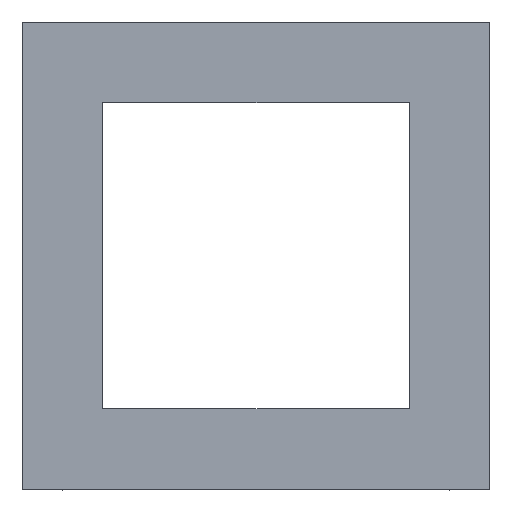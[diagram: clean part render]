
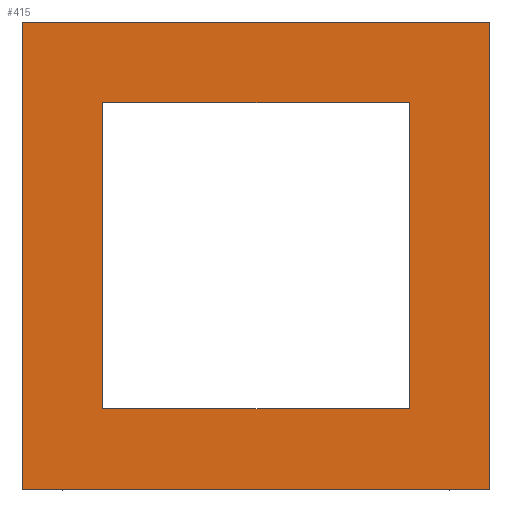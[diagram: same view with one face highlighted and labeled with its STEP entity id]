
A CAD part, top view. The second image highlights one B-rep face of the part: STEP entity #415.
In plain terms, the highlighted planar face has unit normal (0, 0, 1).
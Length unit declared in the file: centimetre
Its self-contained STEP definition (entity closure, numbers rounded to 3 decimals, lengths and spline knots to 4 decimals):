
#112=VECTOR('',#492,1.);
#115=VECTOR('',#496,1.);
#117=VECTOR('',#499,1.);
#119=VECTOR('',#502,1.);
#120=VECTOR('',#504,1.);
#123=VECTOR('',#508,1.);
#125=VECTOR('',#511,1.);
#127=VECTOR('',#514,1.);
#136=LINE('',#566,#112);
#139=LINE('',#572,#115);
#141=LINE('',#576,#117);
#143=LINE('',#580,#119);
#144=LINE('',#582,#120);
#147=LINE('',#588,#123);
#149=LINE('',#592,#125);
#151=LINE('',#596,#127);
#165=PLANE('',#445);
#186=VERTEX_POINT('',#567);
#187=VERTEX_POINT('',#568);
#188=VERTEX_POINT('',#573);
#189=VERTEX_POINT('',#577);
#190=VERTEX_POINT('',#583);
#191=VERTEX_POINT('',#584);
#192=VERTEX_POINT('',#589);
#193=VERTEX_POINT('',#593);
#234=EDGE_CURVE('',#186,#187,#136,.T.);
#237=EDGE_CURVE('',#187,#188,#139,.T.);
#239=EDGE_CURVE('',#188,#189,#141,.T.);
#241=EDGE_CURVE('',#189,#186,#143,.T.);
#242=EDGE_CURVE('',#190,#191,#144,.T.);
#245=EDGE_CURVE('',#191,#192,#147,.T.);
#247=EDGE_CURVE('',#192,#193,#149,.T.);
#249=EDGE_CURVE('',#193,#190,#151,.T.);
#330=ORIENTED_EDGE('',*,*,#242,.F.);
#331=ORIENTED_EDGE('',*,*,#249,.F.);
#332=ORIENTED_EDGE('',*,*,#247,.F.);
#333=ORIENTED_EDGE('',*,*,#245,.F.);
#334=ORIENTED_EDGE('',*,*,#234,.F.);
#335=ORIENTED_EDGE('',*,*,#241,.F.);
#336=ORIENTED_EDGE('',*,*,#239,.F.);
#337=ORIENTED_EDGE('',*,*,#237,.F.);
#364=EDGE_LOOP('',(#330,#331,#332,#333));
#365=EDGE_LOOP('',(#334,#335,#336,#337));
#392=FACE_BOUND('',#364,.T.);
#393=FACE_BOUND('',#365,.T.);
#415=ADVANCED_FACE('',(#392,#393),#165,.T.);
#445=AXIS2_PLACEMENT_3D('',#597,#515,$);
#492=DIRECTION('',(-1.,0.,0.));
#496=DIRECTION('',(0.,1.,0.));
#499=DIRECTION('',(1.,0.,0.));
#502=DIRECTION('',(0.,-1.,0.));
#504=DIRECTION('',(1.,0.,0.));
#508=DIRECTION('',(0.,1.,0.));
#511=DIRECTION('',(-1.,0.,0.));
#514=DIRECTION('',(0.,-1.,0.));
#515=DIRECTION('',(0.,0.,1.));
#566=CARTESIAN_POINT('',(1.524,-0.3175,0.5969));
#567=CARTESIAN_POINT('',(1.524,-0.3175,0.5969));
#568=CARTESIAN_POINT('',(-0.3175,-0.3175,0.5969));
#572=CARTESIAN_POINT('',(-0.3175,-0.3175,0.5969));
#573=CARTESIAN_POINT('',(-0.3175,1.524,0.5969));
#576=CARTESIAN_POINT('',(-0.3175,1.524,0.5969));
#577=CARTESIAN_POINT('',(1.524,1.524,0.5969));
#580=CARTESIAN_POINT('',(1.524,1.524,0.5969));
#582=CARTESIAN_POINT('',(1.2065,0.,0.5969));
#583=CARTESIAN_POINT('',(0.,0.,0.5969));
#584=CARTESIAN_POINT('',(1.2065,0.,0.5969));
#588=CARTESIAN_POINT('',(1.2065,1.2065,0.5969));
#589=CARTESIAN_POINT('',(1.2065,1.2065,0.5969));
#592=CARTESIAN_POINT('',(0.,1.2065,0.5969));
#593=CARTESIAN_POINT('',(0.,1.2065,0.5969));
#596=CARTESIAN_POINT('',(0.,0.,0.5969));
#597=CARTESIAN_POINT('',(0.6033,0.6033,0.5969));
